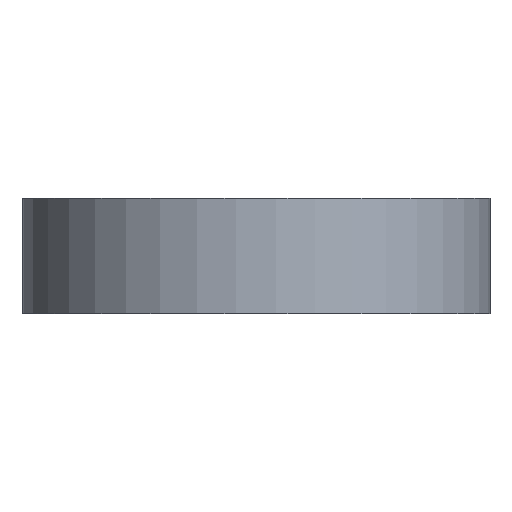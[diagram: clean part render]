
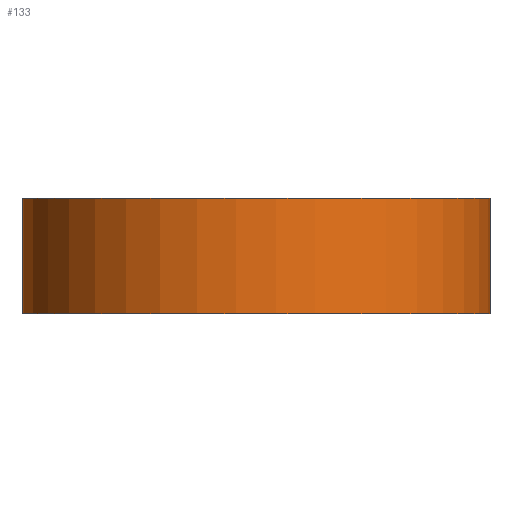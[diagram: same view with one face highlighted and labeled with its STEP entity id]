
A CAD part, front view. The second image highlights one B-rep face of the part: STEP entity #133.
In plain terms, the highlighted cylindrical face has radius 15.2 mm (diameter 30.4 mm), a partial arc.
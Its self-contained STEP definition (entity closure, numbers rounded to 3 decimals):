
#12=CIRCLE('',#155,15.2);
#13=CIRCLE('',#156,15.2);
#20=CYLINDRICAL_SURFACE('',#154,15.2);
#28=ORIENTED_EDGE('',*,*,#60,.T.);
#29=ORIENTED_EDGE('',*,*,#61,.F.);
#30=ORIENTED_EDGE('',*,*,#62,.F.);
#31=ORIENTED_EDGE('',*,*,#57,.T.);
#57=EDGE_CURVE('',#74,#73,#85,.T.);
#60=EDGE_CURVE('',#73,#76,#12,.T.);
#61=EDGE_CURVE('',#77,#76,#88,.T.);
#62=EDGE_CURVE('',#74,#77,#13,.T.);
#73=VERTEX_POINT('',#215);
#74=VERTEX_POINT('',#217);
#76=VERTEX_POINT('',#223);
#77=VERTEX_POINT('',#225);
#85=LINE('',#216,#93);
#88=LINE('',#224,#96);
#93=VECTOR('',#174,1000.);
#96=VECTOR('',#181,1000.);
#101=EDGE_LOOP('',(#28,#29,#30,#31));
#115=FACE_BOUND('',#101,.T.);
#133=ADVANCED_FACE('',(#115),#20,.T.);
#154=AXIS2_PLACEMENT_3D('',#221,#177,#178);
#155=AXIS2_PLACEMENT_3D('',#222,#179,#180);
#156=AXIS2_PLACEMENT_3D('',#226,#182,#183);
#174=DIRECTION('',(0.,0.,-1.));
#177=DIRECTION('',(0.,0.,-1.));
#178=DIRECTION('',(0.,-1.,0.));
#179=DIRECTION('',(0.,0.,1.));
#180=DIRECTION('',(0.,1.,0.));
#181=DIRECTION('',(0.,0.,-1.));
#182=DIRECTION('',(0.,0.,1.));
#183=DIRECTION('',(0.,1.,0.));
#215=CARTESIAN_POINT('',(-71.442,90.489,54.25));
#216=CARTESIAN_POINT('',(-71.442,90.489,61.75));
#217=CARTESIAN_POINT('',(-71.442,90.489,61.75));
#221=CARTESIAN_POINT('',(-56.25,90.,61.75));
#222=CARTESIAN_POINT('',(-56.25,90.,54.25));
#223=CARTESIAN_POINT('',(-41.058,90.489,54.25));
#224=CARTESIAN_POINT('',(-41.058,90.489,61.75));
#225=CARTESIAN_POINT('',(-41.058,90.489,61.75));
#226=CARTESIAN_POINT('',(-56.25,90.,61.75));
